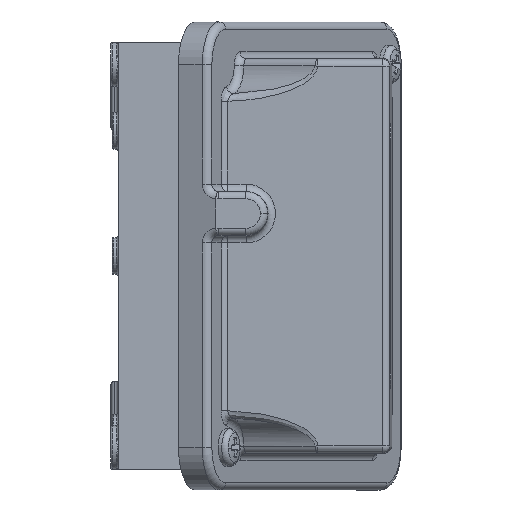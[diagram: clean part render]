
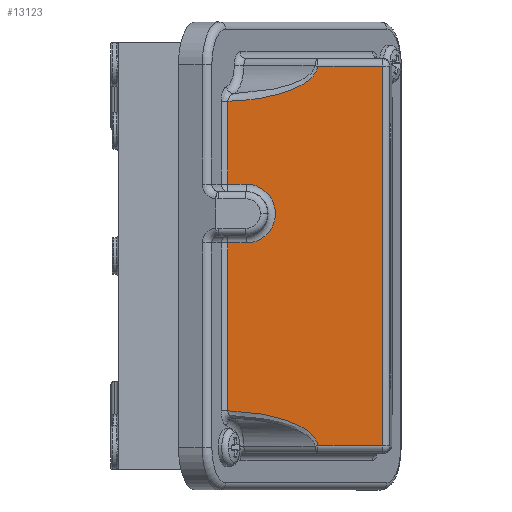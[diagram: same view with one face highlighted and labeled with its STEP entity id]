
A CAD part, front view. The second image highlights one B-rep face of the part: STEP entity #13123.
In plain terms, the highlighted planar face has unit normal (-0.005, -1, 0).
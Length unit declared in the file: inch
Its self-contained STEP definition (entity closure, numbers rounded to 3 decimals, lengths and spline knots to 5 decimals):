
#323 = ORIENTED_EDGE ( 'NONE', *, *, #12740, .T. ) ;
#910 = VERTEX_POINT ( 'NONE', #10857 ) ;
#2504 = AXIS2_PLACEMENT_3D ( 'NONE', #3369, #14732, #20932 ) ;
#3231 = EDGE_CURVE ( 'NONE', #17669, #14090, #6028, .T. ) ;
#3369 = CARTESIAN_POINT ( 'NONE',  ( 1.08558, -3.55702, 0.36 ) ) ;
#4548 = EDGE_CURVE ( 'NONE', #10802, #20769, #21067, .T. ) ;
#4879 = EDGE_CURVE ( 'NONE', #23726, #21264, #12805, .T. ) ;
#4941 = CARTESIAN_POINT ( 'NONE',  ( 1.67399, -3.56009, -1.44199 ) ) ;
#4957 = CARTESIAN_POINT ( 'NONE',  ( 2.30517, -3.56338, 0.6095 ) ) ;
#5053 = CARTESIAN_POINT ( 'NONE',  ( 0.932, -3.55622, 1.313 ) ) ;
#5201 = LINE ( 'NONE', #4957, #23564 ) ;
#5680 = ORIENTED_EDGE ( 'NONE', *, *, #3231, .T. ) ;
#6028 = LINE ( 'NONE', #13606, #18991 ) ;
#6481 = LINE ( 'NONE', #23438, #23308 ) ;
#6815 = CARTESIAN_POINT ( 'NONE',  ( 1.67399, -3.56009, 1.44199 ) ) ;
#7656 =( BOUNDED_CURVE ( )  B_SPLINE_CURVE ( 3, ( #16050, #6815, #10859, #5053 ),
 .UNSPECIFIED., .F., .T. ) 
 B_SPLINE_CURVE_WITH_KNOTS ( ( 4, 4 ),
 ( 3.18961, 4.65567 ),
 .UNSPECIFIED. ) 
 CURVE ( )  GEOMETRIC_REPRESENTATION_ITEM ( )  RATIONAL_B_SPLINE_CURVE ( ( 1., 0.829, 0.829, 1. ) ) 
 REPRESENTATION_ITEM ( '' )  );
#7773 = EDGE_CURVE ( 'NONE', #21264, #910, #11505, .T. ) ;
#8289 = CARTESIAN_POINT ( 'NONE',  ( 0.932, -3.55622, 0.1105 ) ) ;
#8411 = EDGE_CURVE ( 'NONE', #20789, #21924, #7656, .T. ) ;
#9910 = DIRECTION ( 'NONE',  ( -1., 0.005, 0. ) ) ;
#10042 = EDGE_LOOP ( 'NONE', ( #5680, #15622, #22823, #20887, #20370, #21504, #21481, #12307, #17084, #323 ) ) ;
#10099 = VERTEX_POINT ( 'NONE', #17648 ) ;
#10664 = EDGE_CURVE ( 'NONE', #10099, #10802, #5201, .T. ) ;
#10767 = CARTESIAN_POINT ( 'NONE',  ( 2.24267, -3.56306, -1.61 ) ) ;
#10802 = VERTEX_POINT ( 'NONE', #12779 ) ;
#10849 = LINE ( 'NONE', #20339, #12001 ) ;
#10857 = CARTESIAN_POINT ( 'NONE',  ( 2.24267, -3.56306, 1.61 ) ) ;
#10859 = CARTESIAN_POINT ( 'NONE',  ( 1.36714, -3.55849, 1.32254 ) ) ;
#11149 = DIRECTION ( 'NONE',  ( 1., -0.005, 0. ) ) ;
#11253 = DIRECTION ( 'NONE',  ( 1., -0.005, 0. ) ) ;
#11289 = DIRECTION ( 'NONE',  ( 0.005, 1., 0. ) ) ;
#11505 = LINE ( 'NONE', #17840, #11528 ) ;
#11528 = VECTOR ( 'NONE', #23270, 39.37008 ) ;
#12001 = VECTOR ( 'NONE', #22215, 39.37008 ) ;
#12307 = ORIENTED_EDGE ( 'NONE', *, *, #10664, .T. ) ;
#12613 = CARTESIAN_POINT ( 'NONE',  ( 0.932, -3.55622, 1.313 ) ) ;
#12623 = CARTESIAN_POINT ( 'NONE',  ( 0.932, -3.55622, 1.6725 ) ) ;
#12682 = CARTESIAN_POINT ( 'NONE',  ( 2.30517, -3.56338, -1.61 ) ) ;
#12740 = EDGE_CURVE ( 'NONE', #20769, #17669, #6481, .T. ) ;
#12779 = CARTESIAN_POINT ( 'NONE',  ( 1.08558, -3.55702, 0.6095 ) ) ;
#12805 = LINE ( 'NONE', #12682, #22094 ) ;
#13123 = ADVANCED_FACE ( 'NONE', ( #20174 ), #16869, .F. ) ;
#13440 = CARTESIAN_POINT ( 'NONE',  ( 2.30517, -3.56338, 1.6725 ) ) ;
#13606 = CARTESIAN_POINT ( 'NONE',  ( 0.932, -3.55622, 1.6725 ) ) ;
#14090 = VERTEX_POINT ( 'NONE', #24935 ) ;
#14146 =( BOUNDED_CURVE ( )  B_SPLINE_CURVE ( 3, ( #24499, #14900, #4941, #22232 ),
 .UNSPECIFIED., .F., .T. ) 
 B_SPLINE_CURVE_WITH_KNOTS ( ( 4, 4 ),
 ( 1.62751, 3.09357 ),
 .UNSPECIFIED. ) 
 CURVE ( )  GEOMETRIC_REPRESENTATION_ITEM ( )  RATIONAL_B_SPLINE_CURVE ( ( 1., 0.829, 0.829, 1. ) ) 
 REPRESENTATION_ITEM ( '' )  );
#14732 = DIRECTION ( 'NONE',  ( 0.005, 1., 0. ) ) ;
#14900 = CARTESIAN_POINT ( 'NONE',  ( 1.36714, -3.55849, -1.32254 ) ) ;
#15218 = CARTESIAN_POINT ( 'NONE',  ( 1.08558, -3.55702, 0.1105 ) ) ;
#15610 = EDGE_CURVE ( 'NONE', #21924, #10099, #24604, .T. ) ;
#15622 = ORIENTED_EDGE ( 'NONE', *, *, #17188, .T. ) ;
#16050 = CARTESIAN_POINT ( 'NONE',  ( 1.69491, -3.5602, 1.61 ) ) ;
#16869 = PLANE ( 'NONE',  #24061 ) ;
#17084 = ORIENTED_EDGE ( 'NONE', *, *, #4548, .T. ) ;
#17188 = EDGE_CURVE ( 'NONE', #14090, #23726, #14146, .T. ) ;
#17648 = CARTESIAN_POINT ( 'NONE',  ( 0.932, -3.55622, 0.6095 ) ) ;
#17669 = VERTEX_POINT ( 'NONE', #8289 ) ;
#17840 = CARTESIAN_POINT ( 'NONE',  ( 2.24267, -3.56306, 1.6725 ) ) ;
#18670 = CARTESIAN_POINT ( 'NONE',  ( 1.69491, -3.5602, 1.61 ) ) ;
#18991 = VECTOR ( 'NONE', #19320, 39.37008 ) ;
#19320 = DIRECTION ( 'NONE',  ( 0., 0., -1. ) ) ;
#20174 = FACE_OUTER_BOUND ( 'NONE', #10042, .T. ) ;
#20339 = CARTESIAN_POINT ( 'NONE',  ( 2.30517, -3.56338, 1.61 ) ) ;
#20345 = DIRECTION ( 'NONE',  ( 0., 0., -1. ) ) ;
#20370 = ORIENTED_EDGE ( 'NONE', *, *, #24325, .T. ) ;
#20769 = VERTEX_POINT ( 'NONE', #15218 ) ;
#20789 = VERTEX_POINT ( 'NONE', #18670 ) ;
#20887 = ORIENTED_EDGE ( 'NONE', *, *, #7773, .T. ) ;
#20932 = DIRECTION ( 'NONE',  ( -1., 0.005, 0. ) ) ;
#21067 = CIRCLE ( 'NONE', #2504, 0.2495 ) ;
#21264 = VERTEX_POINT ( 'NONE', #10767 ) ;
#21481 = ORIENTED_EDGE ( 'NONE', *, *, #15610, .T. ) ;
#21504 = ORIENTED_EDGE ( 'NONE', *, *, #8411, .T. ) ;
#21924 = VERTEX_POINT ( 'NONE', #12613 ) ;
#22094 = VECTOR ( 'NONE', #11149, 39.37008 ) ;
#22215 = DIRECTION ( 'NONE',  ( -1., 0.005, 0. ) ) ;
#22232 = CARTESIAN_POINT ( 'NONE',  ( 1.69491, -3.5602, -1.61 ) ) ;
#22662 = DIRECTION ( 'NONE',  ( -1., 0.005, 0. ) ) ;
#22823 = ORIENTED_EDGE ( 'NONE', *, *, #4879, .T. ) ;
#23270 = DIRECTION ( 'NONE',  ( 0., 0., 1. ) ) ;
#23308 = VECTOR ( 'NONE', #9910, 39.37008 ) ;
#23438 = CARTESIAN_POINT ( 'NONE',  ( 2.30517, -3.56338, 0.1105 ) ) ;
#23564 = VECTOR ( 'NONE', #11253, 39.37008 ) ;
#23726 = VERTEX_POINT ( 'NONE', #24517 ) ;
#24061 = AXIS2_PLACEMENT_3D ( 'NONE', #13440, #11289, #22662 ) ;
#24325 = EDGE_CURVE ( 'NONE', #910, #20789, #10849, .T. ) ;
#24499 = CARTESIAN_POINT ( 'NONE',  ( 0.932, -3.55622, -1.313 ) ) ;
#24517 = CARTESIAN_POINT ( 'NONE',  ( 1.69491, -3.5602, -1.61 ) ) ;
#24604 = LINE ( 'NONE', #12623, #24735 ) ;
#24735 = VECTOR ( 'NONE', #20345, 39.37008 ) ;
#24935 = CARTESIAN_POINT ( 'NONE',  ( 0.932, -3.55622, -1.313 ) ) ;
